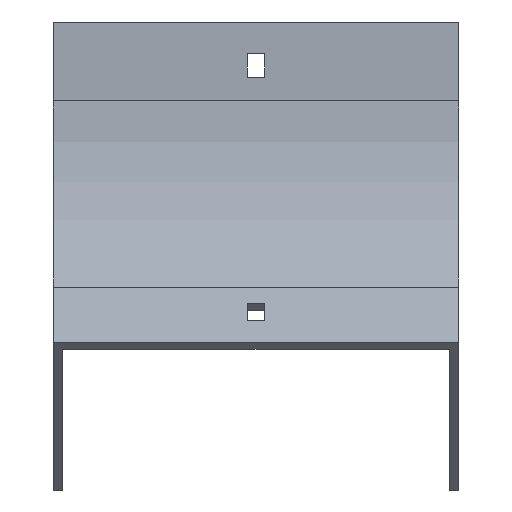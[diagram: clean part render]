
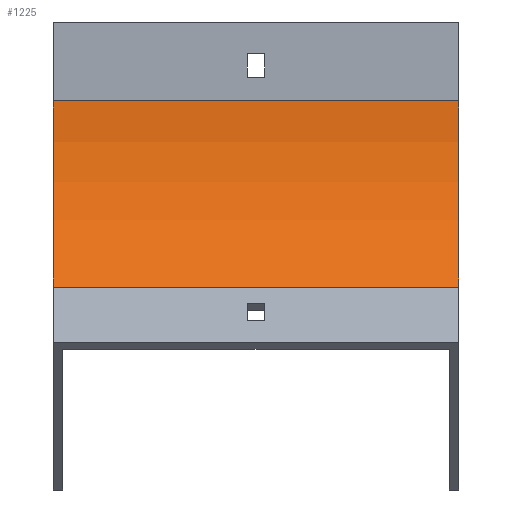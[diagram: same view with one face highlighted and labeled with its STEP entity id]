
A CAD part, front view. The second image highlights one B-rep face of the part: STEP entity #1225.
In plain terms, the highlighted cylindrical face has radius 100 mm (diameter 200 mm), a partial arc.
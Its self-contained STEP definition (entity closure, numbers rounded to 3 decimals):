
#25 = VERTEX_POINT ( 'NONE', #1125 ) ;
#35 = LINE ( 'NONE', #948, #1019 ) ;
#47 = CIRCLE ( 'NONE', #1143, 100. ) ;
#79 = DIRECTION ( 'NONE',  ( -1., 0., 0. ) ) ;
#179 = CYLINDRICAL_SURFACE ( 'NONE', #1259, 100. ) ;
#214 = VERTEX_POINT ( 'NONE', #1128 ) ;
#215 = CARTESIAN_POINT ( 'NONE',  ( 77., 0., -30. ) ) ;
#348 = VERTEX_POINT ( 'NONE', #1361 ) ;
#357 = DIRECTION ( 'NONE',  ( -1., 0., 0. ) ) ;
#372 = EDGE_CURVE ( 'NONE', #25, #214, #35, .T. ) ;
#375 = DIRECTION ( 'NONE',  ( 0., 0., 1. ) ) ;
#391 = EDGE_CURVE ( 'NONE', #743, #348, #1116, .T. ) ;
#423 = EDGE_CURVE ( 'NONE', #348, #214, #47, .T. ) ;
#447 = EDGE_LOOP ( 'NONE', ( #671, #1242, #1618, #910 ) ) ;
#464 = DIRECTION ( 'NONE',  ( 0., 0., 1. ) ) ;
#528 = EDGE_CURVE ( 'NONE', #743, #25, #1796, .T. ) ;
#671 = ORIENTED_EDGE ( 'NONE', *, *, #423, .T. ) ;
#743 = VERTEX_POINT ( 'NONE', #1867 ) ;
#910 = ORIENTED_EDGE ( 'NONE', *, *, #391, .T. ) ;
#948 = CARTESIAN_POINT ( 'NONE',  ( 77., -29.289, -100.711 ) ) ;
#963 = AXIS2_PLACEMENT_3D ( 'NONE', #1588, #1747, #1930 ) ;
#1019 = VECTOR ( 'NONE', #1869, 1000. ) ;
#1076 = FACE_OUTER_BOUND ( 'NONE', #447, .T. ) ;
#1116 = LINE ( 'NONE', #215, #1704 ) ;
#1125 = CARTESIAN_POINT ( 'NONE',  ( 77., -29.289, -100.711 ) ) ;
#1128 = CARTESIAN_POINT ( 'NONE',  ( -77., -29.289, -100.711 ) ) ;
#1143 = AXIS2_PLACEMENT_3D ( 'NONE', #1562, #79, #375 ) ;
#1198 = DIRECTION ( 'NONE',  ( -1., 0., 0. ) ) ;
#1225 = ADVANCED_FACE ( 'NONE', ( #1076 ), #179, .F. ) ;
#1242 = ORIENTED_EDGE ( 'NONE', *, *, #372, .F. ) ;
#1259 = AXIS2_PLACEMENT_3D ( 'NONE', #1356, #1198, #464 ) ;
#1356 = CARTESIAN_POINT ( 'NONE',  ( 77., -100., -30. ) ) ;
#1361 = CARTESIAN_POINT ( 'NONE',  ( -77., 0., -30. ) ) ;
#1562 = CARTESIAN_POINT ( 'NONE',  ( -77., -100., -30. ) ) ;
#1588 = CARTESIAN_POINT ( 'NONE',  ( 77., -100., -30. ) ) ;
#1618 = ORIENTED_EDGE ( 'NONE', *, *, #528, .F. ) ;
#1704 = VECTOR ( 'NONE', #357, 1000. ) ;
#1747 = DIRECTION ( 'NONE',  ( -1., 0., 0. ) ) ;
#1796 = CIRCLE ( 'NONE', #963, 100. ) ;
#1867 = CARTESIAN_POINT ( 'NONE',  ( 77., 0., -30. ) ) ;
#1869 = DIRECTION ( 'NONE',  ( -1., 0., 0. ) ) ;
#1930 = DIRECTION ( 'NONE',  ( 0., 0., 1. ) ) ;
